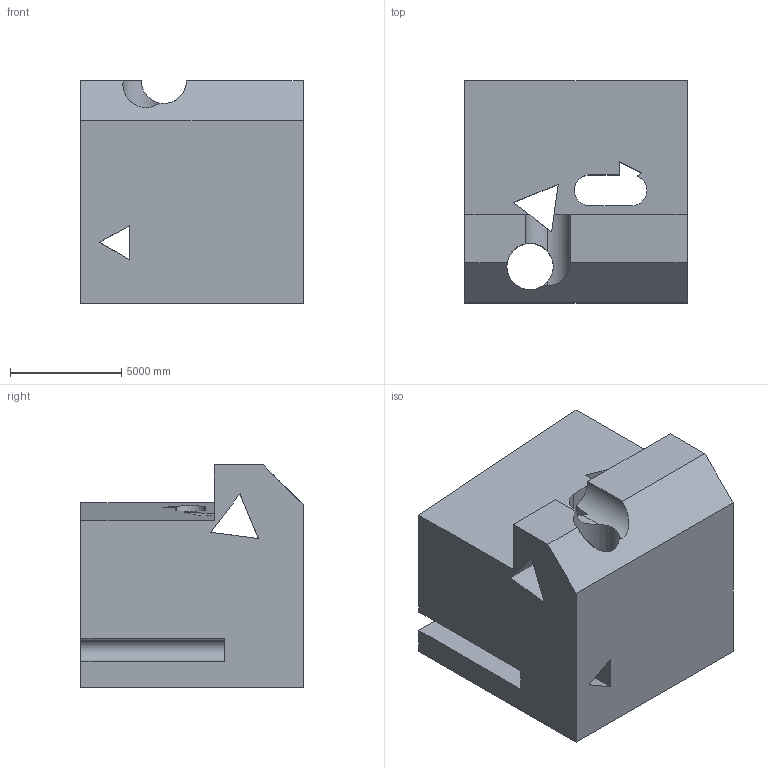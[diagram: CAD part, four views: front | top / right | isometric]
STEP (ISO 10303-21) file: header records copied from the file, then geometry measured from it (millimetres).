
FILE_DESCRIPTION (( 'STEP AP203' ), '1' );
FILE_NAME ('1992.STEP', '2022-08-25T16:59:37', ( 'user' ), ( '' ), 'SwSTEP 2.0', 'SolidWorks 2021', '' );
FILE_SCHEMA (( 'CONFIG_CONTROL_DESIGN' ));
Length unit declared in the file: centimetre
Products named in the file (1): 1992
Bounding box: 10000 x 10000 x 10000 mm (x, y, z)
Volume: 730285859166 mm3; surface area: 836944824.9 mm2
Topology: 1 solids, 1 shells, 38 faces, 129 edges, 86 vertices
Faces by surface type: plane 29, cylinder 9
Entity records: 1637 total; most frequent: CARTESIAN_POINT 455, ORIENTED_EDGE 258, DIRECTION 197, EDGE_CURVE 129, LINE 99, VECTOR 99, VERTEX_POINT 86, AXIS2_PLACEMENT_3D 49
